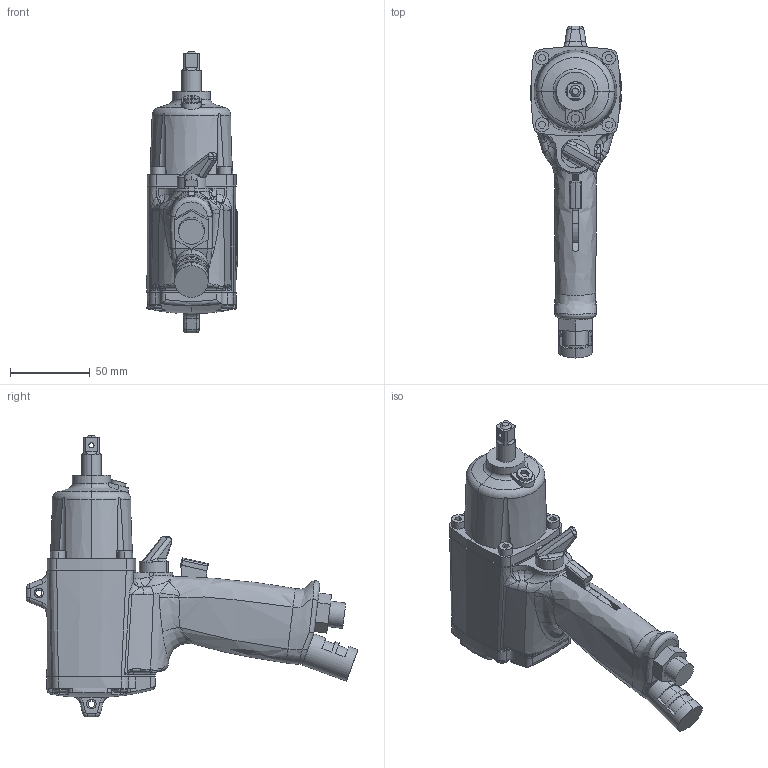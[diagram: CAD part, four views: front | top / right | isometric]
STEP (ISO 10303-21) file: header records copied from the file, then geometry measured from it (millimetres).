
FILE_DESCRIPTION (( 'STEP AP203' ), '1' );
FILE_NAME ('UX-800.STEP', '2006-09-04T00:56:32', ( '' ), ( '' ), 'SwSTEP 2.0', 'SolidWorks 2003240', '' );
FILE_SCHEMA (( 'CONFIG_CONTROL_DESIGN' ));
Products named in the file (7): 1871071_UX-800_蹬怮椔; UX-800; 1943192_UX-800_蹬怮椔; 1944392_UX-800_蹬怮椔; 1940252_UX-800_蹬怮椔; 1510127_UX-800_蹬怮椔; 0232124_UX-800_蹬怮椔
Assembly tree (6 placements, depth 2):
  UX-800
    1940252_UX-800_蹬怮椔
    1871071_UX-800_蹬怮椔
    0232124_UX-800_蹬怮椔
    1944392_UX-800_蹬怮椔
    1510127_UX-800_蹬怮椔
    1943192_UX-800_蹬怮椔
Bounding box: 56.67 x 207.97 x 176.5 mm (x, y, z)
Volume: 505913.1 mm3; surface area: 68715.2 mm2
Topology: 6 solids, 6 shells, 841 faces, 2191 edges, 1408 vertices
Faces by surface type: plane 346, bspline 241, cylinder 210, torus 25, cone 10, sphere 9
Entity records: 93074 total; most frequent: CARTESIAN_POINT 74072, ORIENTED_EDGE 4364, DIRECTION 2851, EDGE_CURVE 2182, VERTEX_POINT 1410, AXIS2_PLACEMENT_3D 1017, B_SPLINE_CURVE_WITH_KNOTS 922, EDGE_LOOP 908
